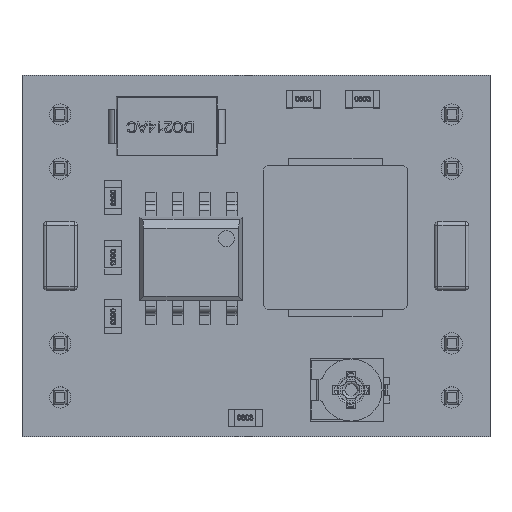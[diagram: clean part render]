
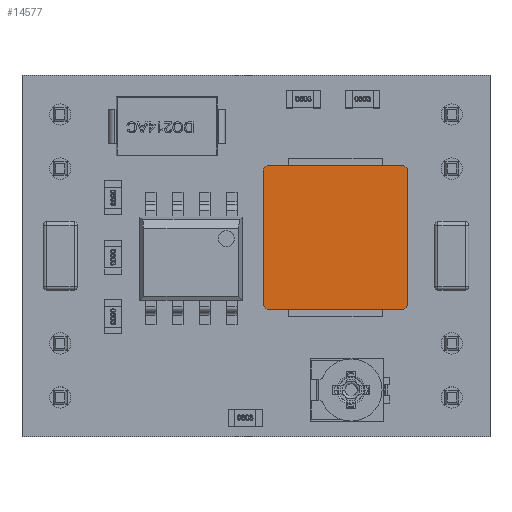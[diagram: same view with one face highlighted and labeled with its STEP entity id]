
A CAD part, top view. The second image highlights one B-rep face of the part: STEP entity #14577.
In plain terms, the highlighted planar face has unit normal (0, 0, 1).
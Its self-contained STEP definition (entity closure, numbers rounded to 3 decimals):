
#180 = ORIENTED_EDGE ( 'NONE', *, *, #40962, .F. ) ;
#392 = VECTOR ( 'NONE', #18159, 1000. ) ;
#440 = DIRECTION ( 'NONE',  ( 0.924, 0.383, 0. ) ) ;
#517 = ORIENTED_EDGE ( 'NONE', *, *, #40749, .T. ) ;
#742 = ORIENTED_EDGE ( 'NONE', *, *, #21869, .F. ) ;
#787 = ORIENTED_EDGE ( 'NONE', *, *, #41477, .T. ) ;
#1145 = CARTESIAN_POINT ( 'NONE',  ( 16.286, -9.051, 3. ) ) ;
#1802 = CARTESIAN_POINT ( 'NONE',  ( 9.532, -2.381, 3. ) ) ;
#1929 = CARTESIAN_POINT ( 'NONE',  ( 9.532, -8.941, 3. ) ) ;
#2119 = DIRECTION ( 'NONE',  ( 1., 0., 0. ) ) ;
#2796 = CARTESIAN_POINT ( 'NONE',  ( 9.662, -9.135, 3. ) ) ;
#4607 = CARTESIAN_POINT ( 'NONE',  ( 9.532, -2.681, 3. ) ) ;
#5106 = VERTEX_POINT ( 'NONE', #61545 ) ;
#5631 = ORIENTED_EDGE ( 'NONE', *, *, #12626, .T. ) ;
#6233 = EDGE_CURVE ( 'NONE', #9716, #12958, #19376, .T. ) ;
#6704 = VERTEX_POINT ( 'NONE', #46747 ) ;
#7054 = VECTOR ( 'NONE', #11786, 1000. ) ;
#7233 = VECTOR ( 'NONE', #440, 1000. ) ;
#7474 = VECTOR ( 'NONE', #23045, 1000. ) ;
#8008 = VERTEX_POINT ( 'NONE', #18326 ) ;
#8086 = ORIENTED_EDGE ( 'NONE', *, *, #31139, .T. ) ;
#8793 = VERTEX_POINT ( 'NONE', #49444 ) ;
#9554 = ORIENTED_EDGE ( 'NONE', *, *, #62183, .T. ) ;
#9716 = VERTEX_POINT ( 'NONE', #9922 ) ;
#9740 = VECTOR ( 'NONE', #53193, 1000. ) ;
#9922 = CARTESIAN_POINT ( 'NONE',  ( 16.332, -2.621, 3. ) ) ;
#10102 = ORIENTED_EDGE ( 'NONE', *, *, #34133, .F. ) ;
#11591 = DIRECTION ( 'NONE',  ( -0.924, -0.383, 0. ) ) ;
#11706 = DIRECTION ( 'NONE',  ( 0.924, -0.383, 0. ) ) ;
#11786 = DIRECTION ( 'NONE',  ( 0.383, -0.924, 0. ) ) ;
#12257 = DIRECTION ( 'NONE',  ( -0.707, -0.707, 0. ) ) ;
#12356 = CARTESIAN_POINT ( 'NONE',  ( 9.578, -2.511, 3. ) ) ;
#12626 = EDGE_CURVE ( 'NONE', #54543, #31560, #44696, .T. ) ;
#12958 = VERTEX_POINT ( 'NONE', #55721 ) ;
#14577 = ADVANCED_FACE ( 'NONE', ( #19520 ), #14758, .F. ) ;
#14758 = PLANE ( 'NONE',  #37898 ) ;
#15049 = DIRECTION ( 'NONE',  ( 0., -1., 0. ) ) ;
#15202 = LINE ( 'NONE', #29118, #46455 ) ;
#15981 = DIRECTION ( 'NONE',  ( -0.707, 0.707, 0. ) ) ;
#17322 = CARTESIAN_POINT ( 'NONE',  ( 9.662, -2.427, 3. ) ) ;
#18159 = DIRECTION ( 'NONE',  ( -1., 0., 0. ) ) ;
#18326 = CARTESIAN_POINT ( 'NONE',  ( 9.772, -2.381, 3. ) ) ;
#19376 = LINE ( 'NONE', #29805, #9740 ) ;
#19520 = FACE_OUTER_BOUND ( 'NONE', #19569, .T. ) ;
#19569 = EDGE_LOOP ( 'NONE', ( #29437, #5631, #23958, #10102, #8086, #517, #9554, #180, #57891, #787, #56889, #21936, #54481, #32630, #55749, #742 ) ) ;
#19807 = CARTESIAN_POINT ( 'NONE',  ( 9.772, -9.181, 3. ) ) ;
#20104 = DIRECTION ( 'NONE',  ( -0.924, 0.383, 0. ) ) ;
#20777 = CARTESIAN_POINT ( 'NONE',  ( 16.092, -9.181, 3. ) ) ;
#21224 = VERTEX_POINT ( 'NONE', #61540 ) ;
#21539 = VECTOR ( 'NONE', #20104, 1000. ) ;
#21869 = EDGE_CURVE ( 'NONE', #6704, #5106, #15202, .T. ) ;
#21936 = ORIENTED_EDGE ( 'NONE', *, *, #26051, .F. ) ;
#22065 = VECTOR ( 'NONE', #26914, 1000. ) ;
#23045 = DIRECTION ( 'NONE',  ( 0.383, 0.924, 0. ) ) ;
#23613 = VERTEX_POINT ( 'NONE', #58005 ) ;
#23958 = ORIENTED_EDGE ( 'NONE', *, *, #26438, .T. ) ;
#24248 = LINE ( 'NONE', #58045, #61448 ) ;
#24583 = LINE ( 'NONE', #20777, #7233 ) ;
#25171 = LINE ( 'NONE', #43780, #48277 ) ;
#25913 = LINE ( 'NONE', #1802, #38625 ) ;
#26051 = EDGE_CURVE ( 'NONE', #8008, #30691, #25913, .T. ) ;
#26181 = CARTESIAN_POINT ( 'NONE',  ( 16.202, -9.135, 3. ) ) ;
#26438 = EDGE_CURVE ( 'NONE', #31560, #41495, #31027, .T. ) ;
#26914 = DIRECTION ( 'NONE',  ( -0.383, -0.924, 0. ) ) ;
#27408 = LINE ( 'NONE', #17322, #45474 ) ;
#27559 = EDGE_CURVE ( 'NONE', #39134, #30691, #58018, .T. ) ;
#28405 = CARTESIAN_POINT ( 'NONE',  ( 16.286, -9.051, 3. ) ) ;
#28438 = CARTESIAN_POINT ( 'NONE',  ( 16.092, -2.381, 3. ) ) ;
#29118 = CARTESIAN_POINT ( 'NONE',  ( 9.532, -2.681, 3. ) ) ;
#29244 = CARTESIAN_POINT ( 'NONE',  ( 9.578, -9.051, 3. ) ) ;
#29437 = ORIENTED_EDGE ( 'NONE', *, *, #56179, .T. ) ;
#29805 = CARTESIAN_POINT ( 'NONE',  ( 16.332, -2.621, 3. ) ) ;
#30488 = LINE ( 'NONE', #1929, #7054 ) ;
#30641 = VERTEX_POINT ( 'NONE', #41721 ) ;
#30691 = VERTEX_POINT ( 'NONE', #28438 ) ;
#31027 = LINE ( 'NONE', #2796, #45752 ) ;
#31139 = EDGE_CURVE ( 'NONE', #30641, #8793, #24583, .T. ) ;
#31498 = VECTOR ( 'NONE', #43445, 1000. ) ;
#31560 = VERTEX_POINT ( 'NONE', #35231 ) ;
#32630 = ORIENTED_EDGE ( 'NONE', *, *, #46213, .T. ) ;
#34133 = EDGE_CURVE ( 'NONE', #30641, #41495, #42486, .T. ) ;
#35231 = CARTESIAN_POINT ( 'NONE',  ( 9.662, -9.135, 3. ) ) ;
#36157 = VECTOR ( 'NONE', #44802, 1000. ) ;
#37898 = AXIS2_PLACEMENT_3D ( 'NONE', #4607, #62549, #59978 ) ;
#38625 = VECTOR ( 'NONE', #2119, 1000. ) ;
#39134 = VERTEX_POINT ( 'NONE', #46350 ) ;
#40749 = EDGE_CURVE ( 'NONE', #8793, #50725, #49855, .T. ) ;
#40796 = EDGE_CURVE ( 'NONE', #8008, #23613, #50177, .T. ) ;
#40962 = EDGE_CURVE ( 'NONE', #9716, #21224, #24248, .T. ) ;
#41477 = EDGE_CURVE ( 'NONE', #12958, #39134, #25171, .T. ) ;
#41495 = VERTEX_POINT ( 'NONE', #19807 ) ;
#41721 = CARTESIAN_POINT ( 'NONE',  ( 16.092, -9.181, 3. ) ) ;
#42486 = LINE ( 'NONE', #61814, #392 ) ;
#43445 = DIRECTION ( 'NONE',  ( 0.707, -0.707, 0. ) ) ;
#43780 = CARTESIAN_POINT ( 'NONE',  ( 16.286, -2.511, 3. ) ) ;
#43941 = DIRECTION ( 'NONE',  ( 0., 1., 0. ) ) ;
#44487 = CARTESIAN_POINT ( 'NONE',  ( 9.772, -2.381, 3. ) ) ;
#44696 = LINE ( 'NONE', #29244, #31498 ) ;
#44802 = DIRECTION ( 'NONE',  ( 0.707, 0.707, 0. ) ) ;
#45474 = VECTOR ( 'NONE', #12257, 1000. ) ;
#45752 = VECTOR ( 'NONE', #11706, 1000. ) ;
#46213 = EDGE_CURVE ( 'NONE', #23613, #52497, #27408, .T. ) ;
#46350 = CARTESIAN_POINT ( 'NONE',  ( 16.202, -2.427, 3. ) ) ;
#46455 = VECTOR ( 'NONE', #43941, 1000. ) ;
#46747 = CARTESIAN_POINT ( 'NONE',  ( 9.532, -8.941, 3. ) ) ;
#47056 = LINE ( 'NONE', #56307, #22065 ) ;
#48277 = VECTOR ( 'NONE', #15981, 1000. ) ;
#49444 = CARTESIAN_POINT ( 'NONE',  ( 16.202, -9.135, 3. ) ) ;
#49855 = LINE ( 'NONE', #26181, #36157 ) ;
#50177 = LINE ( 'NONE', #44487, #50277 ) ;
#50277 = VECTOR ( 'NONE', #11591, 1000. ) ;
#50725 = VERTEX_POINT ( 'NONE', #1145 ) ;
#52497 = VERTEX_POINT ( 'NONE', #12356 ) ;
#53193 = DIRECTION ( 'NONE',  ( -0.383, 0.924, 0. ) ) ;
#53393 = EDGE_CURVE ( 'NONE', #52497, #5106, #47056, .T. ) ;
#54481 = ORIENTED_EDGE ( 'NONE', *, *, #40796, .T. ) ;
#54543 = VERTEX_POINT ( 'NONE', #55223 ) ;
#55223 = CARTESIAN_POINT ( 'NONE',  ( 9.578, -9.051, 3. ) ) ;
#55721 = CARTESIAN_POINT ( 'NONE',  ( 16.286, -2.511, 3. ) ) ;
#55749 = ORIENTED_EDGE ( 'NONE', *, *, #53393, .T. ) ;
#56179 = EDGE_CURVE ( 'NONE', #6704, #54543, #30488, .T. ) ;
#56307 = CARTESIAN_POINT ( 'NONE',  ( 9.578, -2.511, 3. ) ) ;
#56889 = ORIENTED_EDGE ( 'NONE', *, *, #27559, .T. ) ;
#57707 = CARTESIAN_POINT ( 'NONE',  ( 16.202, -2.427, 3. ) ) ;
#57891 = ORIENTED_EDGE ( 'NONE', *, *, #6233, .T. ) ;
#58005 = CARTESIAN_POINT ( 'NONE',  ( 9.662, -2.427, 3. ) ) ;
#58018 = LINE ( 'NONE', #57707, #21539 ) ;
#58045 = CARTESIAN_POINT ( 'NONE',  ( 16.332, -2.681, 3. ) ) ;
#59978 = DIRECTION ( 'NONE',  ( -1., 0., 0. ) ) ;
#61304 = LINE ( 'NONE', #28405, #7474 ) ;
#61448 = VECTOR ( 'NONE', #15049, 1000. ) ;
#61540 = CARTESIAN_POINT ( 'NONE',  ( 16.332, -8.941, 3. ) ) ;
#61545 = CARTESIAN_POINT ( 'NONE',  ( 9.532, -2.621, 3. ) ) ;
#61814 = CARTESIAN_POINT ( 'NONE',  ( 9.532, -9.181, 3. ) ) ;
#62183 = EDGE_CURVE ( 'NONE', #50725, #21224, #61304, .T. ) ;
#62549 = DIRECTION ( 'NONE',  ( 0., 0., -1. ) ) ;
